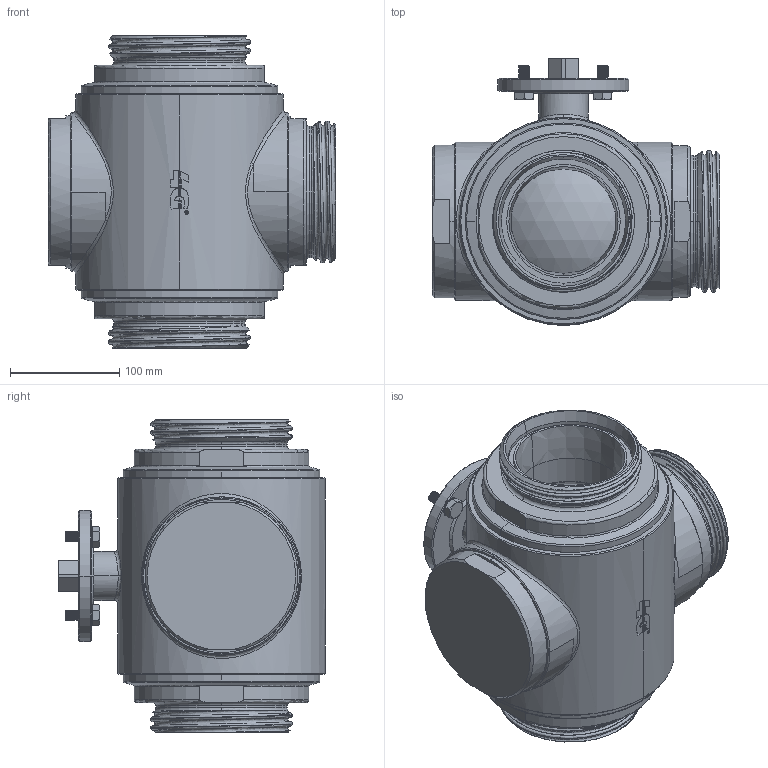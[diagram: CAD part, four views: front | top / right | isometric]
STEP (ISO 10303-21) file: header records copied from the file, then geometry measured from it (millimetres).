
FILE_DESCRIPTION((''),'2;1');
FILE_NAME('PARTE_VUOTA','2022-01-20T16:35:22',('alfio.taboni'),('CDM Tecnoconsulting'),'CREO PARAMETRIC BY PTC INC, 2020053','CREO PARAMETRIC BY PTC INC, 2020053','');
FILE_SCHEMA(('CONFIG_CONTROL_DESIGN','SHAPE_APPEARANCE_LAYERS_GROUPS'));
Products named in the file (1): PARTE_VUOTA
Bounding box: 263 x 244 x 286 mm (x, y, z)
Volume: 4841824.1 mm3; surface area: 655779 mm2
Topology: 1 solids, 21 shells, 1678 faces, 4576 edges, 2960 vertices
Faces by surface type: plane 631, cylinder 551, cone 290, bspline 118, torus 44, extrusion 38, sphere 6
Entity records: 103150 total; most frequent: CARTESIAN_POINT 48606, ORIENTED_EDGE 9128, DIRECTION 7542, PRESENTATION_STYLE_ASSIGNMENT 4595, STYLED_ITEM 4568, CURVE_STYLE 4566, EDGE_CURVE 4566, VERTEX_POINT 2960
